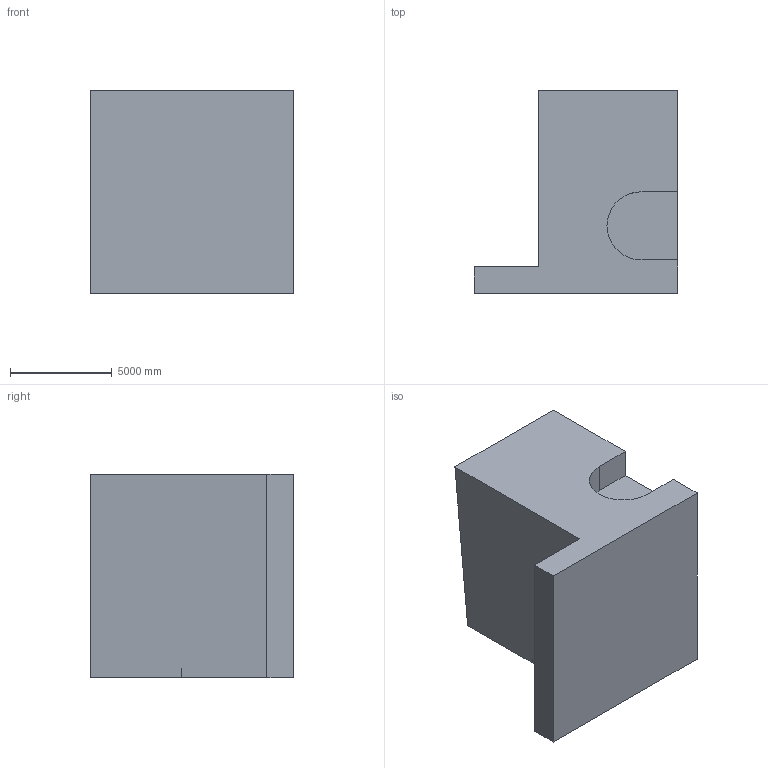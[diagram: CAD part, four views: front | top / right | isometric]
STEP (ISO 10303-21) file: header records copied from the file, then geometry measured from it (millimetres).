
FILE_DESCRIPTION (( 'STEP AP203' ), '1' );
FILE_NAME ('283.STEP', '2022-07-28T14:12:14', ( 'user' ), ( '' ), 'SwSTEP 2.0', 'SolidWorks 2021', '' );
FILE_SCHEMA (( 'CONFIG_CONTROL_DESIGN' ));
Length unit declared in the file: centimetre
Products named in the file (1): 283
Bounding box: 10000 x 10000 x 10000 mm (x, y, z)
Volume: 627545588339.6 mm3; surface area: 574514507.1 mm2
Topology: 1 solids, 1 shells, 17 faces, 44 edges, 29 vertices
Faces by surface type: plane 14, cylinder 3
Entity records: 593 total; most frequent: CARTESIAN_POINT 91, ORIENTED_EDGE 88, DIRECTION 86, EDGE_CURVE 44, VECTOR 38, LINE 38, VERTEX_POINT 29, AXIS2_PLACEMENT_3D 24
